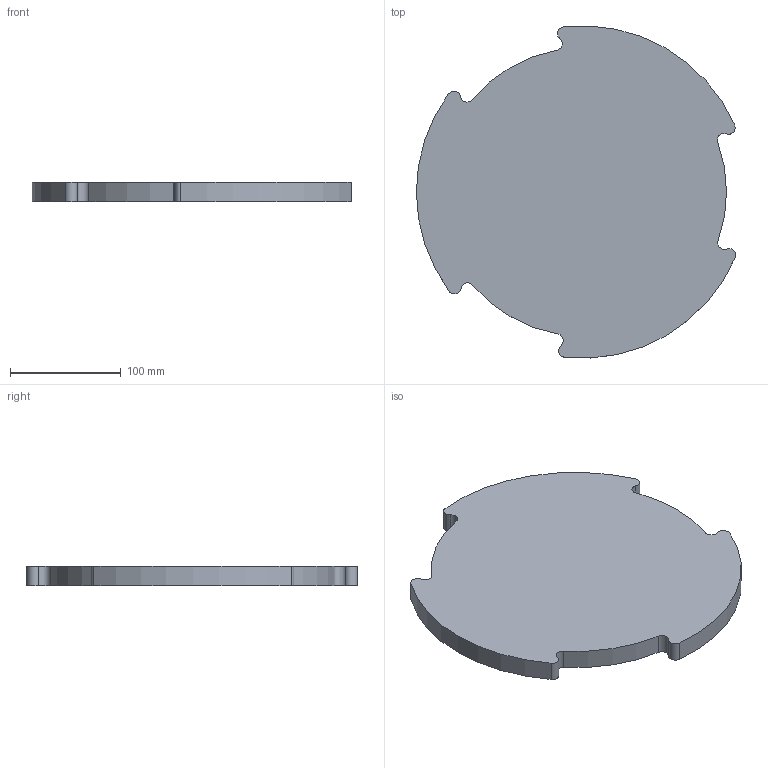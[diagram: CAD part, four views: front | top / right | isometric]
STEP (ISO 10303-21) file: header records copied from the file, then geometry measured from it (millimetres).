
FILE_DESCRIPTION(/* description */ (''),/* implementation_level */ '2;1');
FILE_NAME(/* name */ 'Rad Teller2.step',/* time_stamp */ '2024-08-11T23:27:28+02:00',/* author */ (''),/* organization */ (''),/* preprocessor_version */ 'ST-DEVELOPER v20',/* originating_system */ 'Autodesk Translation Framework v13.14.0.145',/* authorisation */ '');
FILE_SCHEMA (('AUTOMOTIVE_DESIGN { 1 0 10303 214 3 1 1 }'));
Products named in the file (2): Stringer Basis MB; Rad Teller2000
Assembly tree (1 placements, depth 2):
  Stringer Basis MB
    Rad Teller2000
Bounding box: 288.18 x 299.67 x 18 mm (x, y, z)
Volume: 767938.6 mm3; surface area: 171176.6 mm2
Topology: 1 solids, 1 shells, 1345 faces, 4020 edges, 2680 vertices
Faces by surface type: cylinder 860, bspline 480, plane 5
Full cylindrical faces by diameter (mm): 23 x1, 130 x1
Entity records: 285054 total; most frequent: CARTESIAN_POINT 247528, DIRECTION 8436, ORIENTED_EDGE 8040, EDGE_CURVE 4020, AXIS2_PLACEMENT_3D 3548, VERTEX_POINT 2680, CIRCLE 1720, EDGE_LOOP 1348
